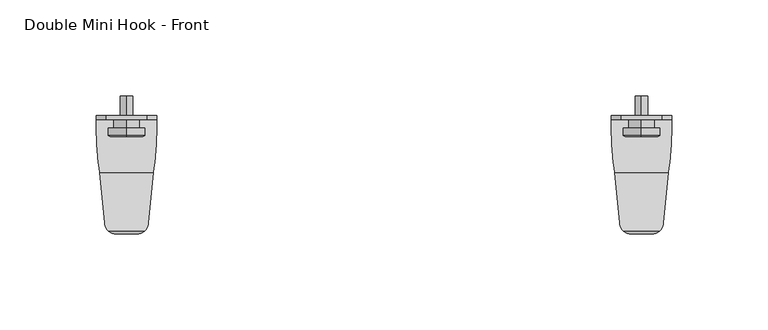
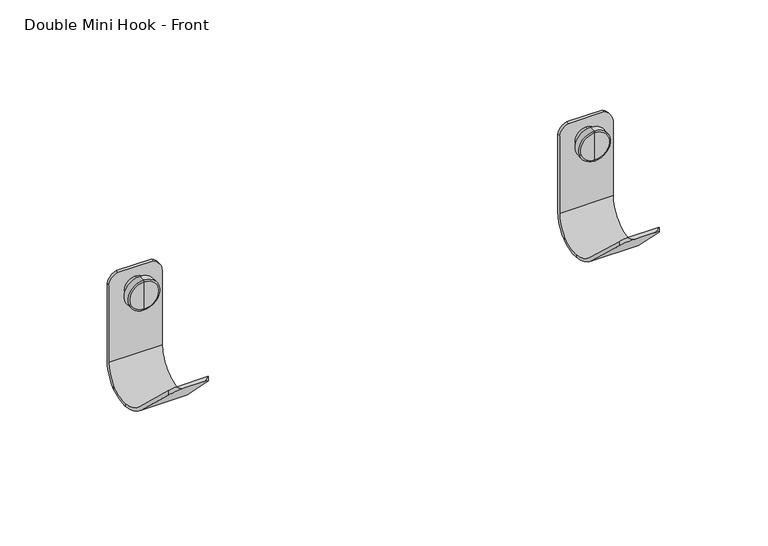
"""IFC4 building model written with IfcOpenShell, lengths in millimetres: furniture geometry, Steelcase Turnstone - Bivi - Accessories - Mini Hook : Double Mini Hook - Front."""

from ifc_helpers import new_model, si_unit, frame, origin, place, context, project, spatial, polyline, circle_curve, ellipse_curve, source, transform, mapped, element, save
from ifc_brep_helpers import plane_surface, cylinder_surface, revolved_surface, advanced_brep


def double_mini_hook_front_8bcf4326(model_context):
    return source(origin(), model_context, "Body", "AdvancedBrep", [
        advanced_brep(
        [(604.2870131, -120.2757621, 1018.5729419), (604.2870131, -120.2757621, 1035.5323022), (604.2870131, -120.2757621, 1027.0526221), (604.2870131, -119.8984646, 1017.6150198), (604.2870131, -119.8984646, 1036.4902243), (604.2870131, -115.9614653, 1017.6150198), (604.2870131, -115.9614653, 1036.4902243), (604.2870131, -115.9614653, 1020.4385878), (604.2870131, -115.9614653, 1033.6666563), (604.2870131, -110.3692216, 1020.4385878), (604.2870131, -110.3692216, 1033.6666563), (604.2870131, -110.3692216, 1023.8073744), (604.2870131, -110.3692216, 1030.2978697), (604.2870131, -99.1020656, 1023.8073744), (604.2870131, -99.1020656, 1030.2978697), (604.2870131, -99.1020656, 1027.0526221)],
        [
            (0, 1, circle_curve(frame((604.2870131, -120.2757621, 1027.0526221), z_axis=(0.0, -1.0, 0.0), x_axis=(0.0, 0.0, 1.0)), 8.4796802)),
            (1, 2),
            (2, 0),
            (1, 0, circle_curve(frame((604.2870131, -120.2757621, 1027.0526221), z_axis=(0.0, -1.0, 0.0), x_axis=(0.0, 0.0, 1.0)), 8.4796802)),
            (3, 4, circle_curve(frame((604.2870131, -119.8984646, 1027.0526221), z_axis=(0.0, -1.0, 0.0), x_axis=(0.0, 0.0, 1.0)), 9.4376022)),
            (4, 1),
            (0, 3),
            (4, 3, circle_curve(frame((604.2870131, -119.8984646, 1027.0526221), z_axis=(0.0, -1.0, 0.0), x_axis=(0.0, 0.0, 1.0)), 9.4376022)),
            (5, 6, circle_curve(frame((604.2870131, -115.9614653, 1027.0526221), z_axis=(0.0, -1.0, 0.0), x_axis=(0.0, 0.0, 1.0)), 9.4376022)),
            (6, 4),
            (3, 5),
            (6, 5, circle_curve(frame((604.2870131, -115.9614653, 1027.0526221), z_axis=(0.0, -1.0, 0.0), x_axis=(0.0, 0.0, 1.0)), 9.4376022)),
            (7, 8, circle_curve(frame((604.2870131, -115.9614653, 1027.0526221), z_axis=(0.0, -1.0, 0.0), x_axis=(0.0, 0.0, 1.0)), 6.6140343)),
            (8, 6),
            (5, 7),
            (8, 7, circle_curve(frame((604.2870131, -115.9614653, 1027.0526221), z_axis=(0.0, -1.0, 0.0), x_axis=(0.0, 0.0, 1.0)), 6.6140343)),
            (9, 10, circle_curve(frame((604.2870131, -110.3692216, 1027.0526221), z_axis=(0.0, -1.0, 0.0), x_axis=(0.0, 0.0, 1.0)), 6.6140343)),
            (10, 8),
            (7, 9),
            (10, 9, circle_curve(frame((604.2870131, -110.3692216, 1027.0526221), z_axis=(0.0, -1.0, 0.0), x_axis=(0.0, 0.0, 1.0)), 6.6140343)),
            (11, 12, circle_curve(frame((604.2870131, -110.3692216, 1027.0526221), z_axis=(0.0, -1.0, 0.0), x_axis=(0.0, 0.0, 1.0)), 3.2452477)),
            (12, 10),
            (9, 11),
            (12, 11, circle_curve(frame((604.2870131, -110.3692216, 1027.0526221), z_axis=(0.0, -1.0, 0.0), x_axis=(0.0, 0.0, 1.0)), 3.2452477)),
            (13, 14, circle_curve(frame((604.2870131, -99.1020656, 1027.0526221), z_axis=(0.0, -1.0, 0.0), x_axis=(0.0, 0.0, 1.0)), 3.2452477)),
            (14, 12),
            (11, 13),
            (14, 13, circle_curve(frame((604.2870131, -99.1020656, 1027.0526221), z_axis=(0.0, -1.0, 0.0), x_axis=(0.0, 0.0, 1.0)), 3.2452477)),
            (15, 14),
            (13, 15),
        ],
        [
            plane_surface(frame((604.2870131, -120.2757621, 1027.0526221), z_axis=(0.0, -1.0, 0.0), x_axis=(0.0, 0.0, 1.0))),
            revolved_surface(polyline([(604.2870131, -120.2757621, 1035.5323022), (604.2870131, -119.8984646, 1036.4902243)]), (604.2870131, -116.6738789, 1027.0526221), (0.0, 1.0, 0.0)),
            cylinder_surface(frame((604.2870131, -116.6738789, 1027.0526221), z_axis=(0.0, 1.0, 0.0), x_axis=(0.0, 0.0, 1.0)), 9.4376022),
            plane_surface(frame((604.2870131, -115.9614653, 1027.0526221), z_axis=(0.0, 1.0, 0.0), x_axis=(0.0, 0.0, 1.0))),
            cylinder_surface(frame((604.2870131, -116.6738789, 1027.0526221), z_axis=(0.0, 1.0, 0.0), x_axis=(0.0, 0.0, 1.0)), 6.6140343),
            plane_surface(frame((604.2870131, -110.3692216, 1027.0526221), z_axis=(0.0, 1.0, 0.0), x_axis=(0.0, 0.0, 1.0))),
            cylinder_surface(frame((604.2870131, -116.6738789, 1027.0526221), z_axis=(0.0, 1.0, 0.0), x_axis=(0.0, 0.0, 1.0)), 3.2452477),
            plane_surface(frame((604.2870131, -99.1020656, 1027.0526221), z_axis=(0.0, 1.0, 0.0), x_axis=(0.0, 0.0, 1.0))),
        ],
        [
            (0, [[1, 2, 3]]),
            (0, [[4, -3, -2]]),
            (1, [[5, 6, -1, 7]]),
            (1, [[8, -7, -4, -6]]),
            (2, [[9, 10, -5, 11]]),
            (2, [[12, -11, -8, -10]]),
            (3, [[13, 14, -9, 15]]),
            (3, [[16, -15, -12, -14]]),
            (4, [[17, 18, -13, 19]]),
            (4, [[20, -19, -16, -18]]),
            (5, [[21, 22, -17, 23]]),
            (5, [[24, -23, -20, -22]]),
            (6, [[25, 26, -21, 27]]),
            (6, [[28, -27, -24, -26]]),
            (7, [[29, -25, 30]]),
            (7, [[-30, -28, -29]]),
        ],
    ),
        advanced_brep(
        [(588.412011, -111.3895045, 985.0156196), (588.412011, -111.3895045, 1031.8857507), (588.412011, -111.3895045, 1033.6357817), (588.412011, -109.4844564, 1033.6357817), (588.412011, -109.4844564, 1031.8857507), (588.412011, -109.4844564, 985.0156196), (588.412011, -115.9875666, 971.1769593), (588.412011, -115.9875666, 973.6348117), (620.1620178, -109.4844564, 985.0156196), (620.1620178, -109.4844564, 1031.8857305), (620.1620178, -111.3895045, 1031.8857305), (620.1620178, -111.3895045, 985.0156196), (620.1620178, -115.9875175, 973.6348625), (620.1620178, -115.9875175, 971.1770008), (619.5669637, -127.3418275, 966.8432061), (618.1739692, -140.5952849, 971.9889373), (590.4000571, -140.5952849, 971.9889373), (589.0070625, -127.3418275, 966.8432061), (615.5844292, -165.2331117, 995.7814101), (609.7199436, -171.0975973, 1001.444678), (598.8540827, -171.0975973, 1001.444678), (592.989597, -165.2331117, 995.7814101), (613.451349, -169.757358, 1002.7849173), (595.1226772, -169.757358, 1002.7849173), (615.5844292, -165.2331117, 998.4159034), (618.312333, -139.2788407, 973.3521552), (590.2616932, -139.2788407, 973.3521552), (592.989597, -165.2331117, 998.4159034), (589.0070625, -127.3418275, 968.6377665), (619.5669637, -127.3418275, 968.6377665), (614.8404561, -111.3895045, 1039.7467841), (593.7460056, -111.3895045, 1039.7526221), (614.8280108, -109.4844564, 1039.7526221), (593.7460056, -109.4844564, 1039.7526221)],
        [
            (0, 1),
            (1, 2),
            (2, 3),
            (3, 4),
            (4, 5),
            (5, 6, circle_curve(frame((588.412011, -127.8422681, 985.1950728), z_axis=(-1.0, 0.0, 0.0), x_axis=(0.0, -1.0, 0.0)), 18.3586888)),
            (6, 7),
            (7, 0, circle_curve(frame((588.412011, -127.7730331, 985.0156196), z_axis=(1.0, 0.0, 0.0), x_axis=(0.0, -1.0, 0.0)), 16.3835286)),
            (8, 9),
            (9, 10),
            (10, 11),
            (11, 12, circle_curve(frame((620.1620178, -127.7730331, 985.0156196), z_axis=(-1.0, 0.0, 0.0), x_axis=(0.0, -1.0, 0.0)), 16.3835286)),
            (12, 13),
            (13, 8, circle_curve(frame((620.1620178, -127.8422681, 985.1950728), z_axis=(1.0, 0.0, 0.0), x_axis=(0.0, -1.0, 0.0)), 18.3586888)),
            (5, 8),
            (13, 14, ellipse_curve(frame((619.5407367, -127.8422681, 985.1950728), z_axis=(-0.9986295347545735, 0.052335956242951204, 0.0), x_axis=(-0.05233595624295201, -0.9986295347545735, 0.0)), 18.3838833, 18.3586888)),
            (14, 15, ellipse_curve(frame((619.5143652, -127.8422681, 985.1950728), z_axis=(-0.9945218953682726, 0.10452846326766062, 0.0), x_axis=(-0.1045284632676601, -0.9945218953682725, 0.0)), 18.4598136, 18.3586888)),
            (15, 16),
            (16, 17, ellipse_curve(frame((589.059661, -127.8422681, 985.1950728), z_axis=(0.9945218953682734, 0.10452846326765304, 0.0), x_axis=(-0.10452846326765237, 0.9945218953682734, 0.0)), 18.4598136, 18.3586888)),
            (17, 6, ellipse_curve(frame((589.0332895, -127.8422681, 985.1950728), z_axis=(0.998629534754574, 0.05233595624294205, 0.0), x_axis=(-0.052335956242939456, 0.998629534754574, 0.0)), 18.3838833, 18.3586888)),
            (15, 18),
            (18, 19, ellipse_curve(frame((609.7199436, -165.2331117, 995.7814101), z_axis=(0.0, -0.6946583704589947, -0.7193398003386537), x_axis=(0.0, 0.7193398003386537, -0.6946583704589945)), 8.1525944, 5.8644857)),
            (19, 20),
            (20, 21, ellipse_curve(frame((598.8540827, -165.2331117, 995.7814101), z_axis=(0.0, -0.6946583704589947, -0.7193398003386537), x_axis=(0.0, 0.7193398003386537, -0.6946583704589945)), 8.1525944, 5.8644857)),
            (21, 16),
            (19, 22, ellipse_curve(frame((609.7199436, -165.2331117, 1007.3091637), z_axis=(0.0, -0.7071067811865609, 0.7071067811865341), x_axis=(0.0, -0.7071067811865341, -0.7071067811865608)), 8.2936352, 5.8644857)),
            (22, 23),
            (23, 20, ellipse_curve(frame((598.8540827, -165.2331117, 1007.3091637), z_axis=(0.0, -0.7071067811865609, 0.7071067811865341), x_axis=(0.0, -0.7071067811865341, -0.7071067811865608)), 8.2936352, 5.8644857)),
            (22, 24, ellipse_curve(frame((609.7199436, -165.2331117, 998.4159034), z_axis=(0.0, 0.6946583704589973, 0.7193398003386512), x_axis=(0.0, 0.7193398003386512, -0.6946583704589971)), 8.1525944, 5.8644857)),
            (24, 25),
            (25, 26),
            (26, 27),
            (27, 23, ellipse_curve(frame((598.8540827, -165.2331117, 998.4159034), z_axis=(0.0, 0.6946583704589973, 0.7193398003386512), x_axis=(0.0, 0.7193398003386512, -0.6946583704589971)), 8.1525944, 5.8644857)),
            (11, 0),
            (7, 28, ellipse_curve(frame((589.0296611, -127.7730331, 985.0156196), z_axis=(-0.998629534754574, -0.05233595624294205, 0.0), x_axis=(0.052335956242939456, -0.998629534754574, 0.0)), 16.4060125, 16.3835286)),
            (28, 26, ellipse_curve(frame((589.0523841, -127.7730331, 985.0156196), z_axis=(-0.9945218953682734, -0.10452846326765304, 0.0), x_axis=(0.10452846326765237, -0.9945218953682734, 0.0)), 16.4737737, 16.3835286)),
            (25, 29, ellipse_curve(frame((619.5216421, -127.7730331, 985.0156196), z_axis=(0.9945218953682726, -0.10452846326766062, 0.0), x_axis=(0.1045284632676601, 0.9945218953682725, 0.0)), 16.4737737, 16.3835286)),
            (29, 12, ellipse_curve(frame((619.5443651, -127.7730331, 985.0156196), z_axis=(0.9986295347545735, -0.052335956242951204, 0.0), x_axis=(0.05233595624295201, 0.9986295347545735, 0.0)), 16.4060125, 16.3835286)),
            (10, 30, circle_curve(frame((610.8894917, -111.3895045, 1031.3404182), z_axis=(0.0, -1.0, 0.0), x_axis=(-1.0, 0.0, 0.0)), 9.288547)),
            (30, 31),
            (31, 2, circle_curve(frame((595.5897362, -111.3895045, 1032.7607662), z_axis=(0.0, -1.0, 0.0), x_axis=(-1.0, 0.0, 0.0)), 7.2308638)),
            (30, 32),
            (32, 33),
            (33, 31),
            (3, 33, circle_curve(frame((595.5897362, -109.4844564, 1032.7607662), z_axis=(0.0, 1.0, 0.0), x_axis=(-1.0, 0.0, 0.0)), 7.2308638)),
            (32, 9, circle_curve(frame((610.8894917, -109.4844564, 1031.3404182), z_axis=(0.0, 1.0, 0.0), x_axis=(-1.0, 0.0, 0.0)), 9.288547)),
            (14, 29),
            (24, 18),
            (17, 28),
            (27, 21),
        ],
        [
            plane_surface(frame((588.412011, -146.2009569, 985.1950728), z_axis=(-1.0, 0.0, 0.0), x_axis=(0.0, 0.0, 1.0))),
            plane_surface(frame((620.1620178, -146.2009569, 985.1950728), z_axis=(1.0, 0.0, 0.0), x_axis=(0.0, 0.0, -1.0))),
            cylinder_surface(frame((620.1620178, -127.8422681, 985.1950728), z_axis=(-1.0, 0.0, 0.0), x_axis=(0.0, -1.0, 0.0)), 18.3586888),
            plane_surface(frame((588.412011, -140.5952849, 971.9889373), z_axis=(0.0, -0.6946583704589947, -0.7193398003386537), x_axis=(1.0, 0.0, 0.0))),
            plane_surface(frame((588.412011, -171.0975973, 1001.444678), z_axis=(0.0, -0.7071067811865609, 0.7071067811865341), x_axis=(1.0, 0.0, 0.0))),
            plane_surface(frame((588.412011, -169.757358, 1002.7849173), z_axis=(0.0, 0.6946583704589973, 0.7193398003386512), x_axis=(1.0, 0.0, 0.0))),
            revolved_surface(polyline([(621.2436203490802, -144.1565617, 985.0156196), (587.33040585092, -144.1565617, 985.0156196)]), (620.1620178, -127.7730331, 985.0156196), (1.0, 0.0, 0.0)),
            plane_surface(frame((588.412011, -111.3895045, 985.0156196), z_axis=(0.0, -1.0, 0.0), x_axis=(1.0, 0.0, 0.0))),
            plane_surface(frame((588.412011, -111.3895045, 1039.7526221), z_axis=(0.0, 0.0, 1.0), x_axis=(1.0, 0.0, 0.0))),
            plane_surface(frame((588.412011, -109.4844564, 1039.7526221), z_axis=(0.0, 1.0, 0.0), x_axis=(1.0, 0.0, 0.0))),
            cylinder_surface(frame((610.8894917, -76.958841, 1031.3404182), z_axis=(0.0, 1.0, 0.0), x_axis=(-1.0, 0.0, 0.0)), 9.288547),
            cylinder_surface(frame((595.5897362, -131.6332564, 1032.7607662), z_axis=(0.0, 1.0, 0.0), x_axis=(-1.0, 0.0, 0.0)), 7.2308638),
            plane_surface(frame((619.5669637, -127.3418275, 1017.6150198), z_axis=(0.9945218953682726, -0.10452846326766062, 0.0), x_axis=(0.0, 0.0, -1.0))),
            cylinder_surface(frame((609.7199436, -165.2331117, 316.2188303), z_axis=(0.0, 0.0, -1.0), x_axis=(0.0, -1.0, 0.0)), 5.8644857),
            plane_surface(frame((620.1620178, -115.9875175, 1017.6150198), z_axis=(0.9986295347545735, -0.052335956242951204, 0.0), x_axis=(0.0, 0.0, -1.0))),
            plane_surface(frame((589.0070625, -127.3418275, 1017.6150198), z_axis=(-0.998629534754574, -0.05233595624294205, 0.0), x_axis=(0.0, 0.0, -1.0))),
            cylinder_surface(frame((598.8540827, -165.2331117, 316.2188303), z_axis=(0.0, 0.0, -1.0), x_axis=(0.0, -1.0, 0.0)), 5.8644857),
            plane_surface(frame((592.989597, -165.2331117, 1017.6150198), z_axis=(-0.9945218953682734, -0.10452846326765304, 0.0), x_axis=(0.0, 0.0, -1.0))),
        ],
        [
            (0, [[1, 2, 3, 4, 5, 6, 7, 8]]),
            (1, [[9, 10, 11, 12, 13, 14]]),
            (2, [[15, -14, 16, 17, 18, 19, 20, -6]]),
            (3, [[-18, 21, 22, 23, 24, 25]]),
            (4, [[-23, 26, 27, 28]]),
            (5, [[-27, 29, 30, 31, 32, 33]]),
            (6, [[34, -8, 35, 36, -31, 37, 38, -12]]),
            (7, [[-34, -11, 39, 40, 41, -2, -1]]),
            (8, [[-40, 42, 43, 44]]),
            (9, [[-15, -5, -4, 45, -43, 46, -9]]),
            (10, [[-10, -46, -42, -39]]),
            (11, [[-3, -41, -44, -45]]),
            (12, [[47, -37, -30, 48, -21, -17]]),
            (13, [[-48, -29, -26, -22]]),
            (14, [[-47, -16, -13, -38]]),
            (15, [[49, -35, -7, -20]]),
            (16, [[50, -24, -28, -33]]),
            (17, [[-49, -19, -25, -50, -32, -36]]),
        ],
    ),
        advanced_brep(
        [(872.4689869, -120.2757621, 1018.5729419), (872.4689869, -120.2757621, 1035.5323022), (872.4689869, -120.2757621, 1027.0526221), (872.4689869, -119.8984646, 1017.6150198), (872.4689869, -119.8984646, 1036.4902243), (872.4689869, -115.9614653, 1017.6150198), (872.4689869, -115.9614653, 1036.4902243), (872.4689869, -115.9614653, 1020.4385878), (872.4689869, -115.9614653, 1033.6666563), (872.4689869, -110.3692216, 1020.4385878), (872.4689869, -110.3692216, 1033.6666563), (872.4689869, -110.3692216, 1023.8073744), (872.4689869, -110.3692216, 1030.2978697), (872.4689869, -99.1020656, 1023.8073744), (872.4689869, -99.1020656, 1030.2978697), (872.4689869, -99.1020656, 1027.0526221)],
        [
            (0, 1, circle_curve(frame((872.4689869, -120.2757621, 1027.0526221), z_axis=(0.0, -1.0, 0.0), x_axis=(0.0, 0.0, 1.0)), 8.4796802)),
            (1, 2),
            (2, 0),
            (1, 0, circle_curve(frame((872.4689869, -120.2757621, 1027.0526221), z_axis=(0.0, -1.0, 0.0), x_axis=(0.0, 0.0, 1.0)), 8.4796802)),
            (3, 4, circle_curve(frame((872.4689869, -119.8984646, 1027.0526221), z_axis=(0.0, -1.0, 0.0), x_axis=(0.0, 0.0, 1.0)), 9.4376022)),
            (4, 1),
            (0, 3),
            (4, 3, circle_curve(frame((872.4689869, -119.8984646, 1027.0526221), z_axis=(0.0, -1.0, 0.0), x_axis=(0.0, 0.0, 1.0)), 9.4376022)),
            (5, 6, circle_curve(frame((872.4689869, -115.9614653, 1027.0526221), z_axis=(0.0, -1.0, 0.0), x_axis=(0.0, 0.0, 1.0)), 9.4376022)),
            (6, 4),
            (3, 5),
            (6, 5, circle_curve(frame((872.4689869, -115.9614653, 1027.0526221), z_axis=(0.0, -1.0, 0.0), x_axis=(0.0, 0.0, 1.0)), 9.4376022)),
            (7, 8, circle_curve(frame((872.4689869, -115.9614653, 1027.0526221), z_axis=(0.0, -1.0, 0.0), x_axis=(0.0, 0.0, 1.0)), 6.6140343)),
            (8, 6),
            (5, 7),
            (8, 7, circle_curve(frame((872.4689869, -115.9614653, 1027.0526221), z_axis=(0.0, -1.0, 0.0), x_axis=(0.0, 0.0, 1.0)), 6.6140343)),
            (9, 10, circle_curve(frame((872.4689869, -110.3692216, 1027.0526221), z_axis=(0.0, -1.0, 0.0), x_axis=(0.0, 0.0, 1.0)), 6.6140343)),
            (10, 8),
            (7, 9),
            (10, 9, circle_curve(frame((872.4689869, -110.3692216, 1027.0526221), z_axis=(0.0, -1.0, 0.0), x_axis=(0.0, 0.0, 1.0)), 6.6140343)),
            (11, 12, circle_curve(frame((872.4689869, -110.3692216, 1027.0526221), z_axis=(0.0, -1.0, 0.0), x_axis=(0.0, 0.0, 1.0)), 3.2452477)),
            (12, 10),
            (9, 11),
            (12, 11, circle_curve(frame((872.4689869, -110.3692216, 1027.0526221), z_axis=(0.0, -1.0, 0.0), x_axis=(0.0, 0.0, 1.0)), 3.2452477)),
            (13, 14, circle_curve(frame((872.4689869, -99.1020656, 1027.0526221), z_axis=(0.0, -1.0, 0.0), x_axis=(0.0, 0.0, 1.0)), 3.2452477)),
            (14, 12),
            (11, 13),
            (14, 13, circle_curve(frame((872.4689869, -99.1020656, 1027.0526221), z_axis=(0.0, -1.0, 0.0), x_axis=(0.0, 0.0, 1.0)), 3.2452477)),
            (15, 14),
            (13, 15),
        ],
        [
            plane_surface(frame((872.4689869, -120.2757621, 1027.0526221), z_axis=(0.0, -1.0, 0.0), x_axis=(0.0, 0.0, 1.0))),
            revolved_surface(polyline([(872.4689869, -120.2757621, 1035.5323022), (872.4689869, -119.8984646, 1036.4902243)]), (872.4689869, -116.6738789, 1027.0526221), (0.0, 1.0000000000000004, 0.0)),
            cylinder_surface(frame((872.4689869, -116.6738789, 1027.0526221), z_axis=(0.0, 1.0000000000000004, 0.0), x_axis=(0.0, 0.0, 1.0)), 9.4376022),
            plane_surface(frame((872.4689869, -115.9614653, 1027.0526221), z_axis=(0.0, 1.0, 0.0), x_axis=(0.0, 0.0, 1.0))),
            cylinder_surface(frame((872.4689869, -116.6738789, 1027.0526221), z_axis=(0.0, 1.0000000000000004, 0.0), x_axis=(0.0, 0.0, 1.0)), 6.6140343),
            plane_surface(frame((872.4689869, -110.3692216, 1027.0526221), z_axis=(0.0, 1.0, 0.0), x_axis=(0.0, 0.0, 1.0))),
            cylinder_surface(frame((872.4689869, -116.6738789, 1027.0526221), z_axis=(0.0, 1.0000000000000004, 0.0), x_axis=(0.0, 0.0, 1.0)), 3.2452477),
            plane_surface(frame((872.4689869, -99.1020656, 1027.0526221), z_axis=(0.0, 1.0, 0.0), x_axis=(0.0, 0.0, 1.0))),
        ],
        [
            (0, [[1, 2, 3]]),
            (0, [[4, -3, -2]]),
            (1, [[5, 6, -1, 7]]),
            (1, [[8, -7, -4, -6]]),
            (2, [[9, 10, -5, 11]]),
            (2, [[12, -11, -8, -10]]),
            (3, [[13, 14, -9, 15]]),
            (3, [[16, -15, -12, -14]]),
            (4, [[17, 18, -13, 19]]),
            (4, [[20, -19, -16, -18]]),
            (5, [[21, 22, -17, 23]]),
            (5, [[24, -23, -20, -22]]),
            (6, [[25, 26, -21, 27]]),
            (6, [[28, -27, -24, -26]]),
            (7, [[29, -25, 30]]),
            (7, [[-30, -28, -29]]),
        ],
    ),
        advanced_brep(
        [(856.5939847, -111.3895045, 985.0156196), (856.5939847, -111.3895045, 1031.8857507), (856.5939847, -111.3895045, 1033.6357817), (856.5939847, -109.4844564, 1033.6357817), (856.5939847, -109.4844564, 1031.8857507), (856.5939847, -109.4844564, 985.0156196), (856.5939847, -115.9875666, 971.1769593), (856.5939847, -115.9875666, 973.6348117), (888.3439916, -109.4844564, 985.0156196), (888.3439916, -109.4844564, 1031.8857305), (888.3439916, -111.3895045, 1031.8857305), (888.3439916, -111.3895045, 985.0156196), (888.3439916, -115.9875175, 973.6348625), (888.3439916, -115.9875175, 971.1770008), (887.7489375, -127.3418275, 966.8432061), (886.3559429, -140.5952849, 971.9889373), (858.5820308, -140.5952849, 971.9889373), (857.1890363, -127.3418275, 966.8432061), (883.766403, -165.2331117, 995.7814101), (877.9019173, -171.0975973, 1001.444678), (867.0360564, -171.0975973, 1001.444678), (861.1715708, -165.2331117, 995.7814101), (881.6333228, -169.757358, 1002.7849173), (863.304651, -169.757358, 1002.7849173), (883.766403, -165.2331117, 998.4159034), (886.4943068, -139.2788407, 973.3521552), (858.443667, -139.2788407, 973.3521552), (861.1715708, -165.2331117, 998.4159034), (857.1890363, -127.3418275, 968.6377665), (887.7489375, -127.3418275, 968.6377665), (883.0224298, -111.3895045, 1039.7467841), (861.9279793, -111.3895045, 1039.7526221), (883.0099846, -109.4844564, 1039.7526221), (861.9279793, -109.4844564, 1039.7526221)],
        [
            (0, 1),
            (1, 2),
            (2, 3),
            (3, 4),
            (4, 5),
            (5, 6, circle_curve(frame((856.5939847, -127.8422681, 985.1950728), z_axis=(-1.0, 0.0, 0.0), x_axis=(0.0, -1.0000000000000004, 0.0)), 18.3586888)),
            (6, 7),
            (7, 0, circle_curve(frame((856.5939847, -127.7730331, 985.0156196), z_axis=(1.0, 0.0, 0.0), x_axis=(0.0, -1.0000000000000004, 0.0)), 16.3835286)),
            (8, 9),
            (9, 10),
            (10, 11),
            (11, 12, circle_curve(frame((888.3439916, -127.7730331, 985.0156196), z_axis=(-1.0, 0.0, 0.0), x_axis=(0.0, -1.0000000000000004, 0.0)), 16.3835286)),
            (12, 13),
            (13, 8, circle_curve(frame((888.3439916, -127.8422681, 985.1950728), z_axis=(1.0, 0.0, 0.0), x_axis=(0.0, -1.0000000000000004, 0.0)), 18.3586888)),
            (5, 8),
            (13, 14, ellipse_curve(frame((887.7227105, -127.8422681, 985.1950728), z_axis=(-0.9986295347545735, 0.052335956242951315, 0.0), x_axis=(-0.05233595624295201, -0.9986295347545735, 0.0)), 18.3838833, 18.3586888)),
            (14, 15, ellipse_curve(frame((887.696339, -127.8422681, 985.1950728), z_axis=(-0.9945218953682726, 0.10452846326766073, 0.0), x_axis=(-0.1045284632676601, -0.9945218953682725, 0.0)), 18.4598136, 18.3586888)),
            (15, 16),
            (16, 17, ellipse_curve(frame((857.2416348, -127.8422681, 985.1950728), z_axis=(0.9945218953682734, 0.10452846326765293, 0.0), x_axis=(-0.10452846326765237, 0.9945218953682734, 0.0)), 18.4598136, 18.3586888)),
            (17, 6, ellipse_curve(frame((857.2152633, -127.8422681, 985.1950728), z_axis=(0.998629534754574, 0.05233595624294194, 0.0), x_axis=(-0.052335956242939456, 0.998629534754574, 0.0)), 18.3838833, 18.3586888)),
            (15, 18),
            (18, 19, ellipse_curve(frame((877.9019173, -165.2331117, 995.7814101), z_axis=(0.0, -0.6946583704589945, -0.7193398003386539), x_axis=(0.0, 0.7193398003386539, -0.6946583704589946)), 8.1525944, 5.8644857)),
            (19, 20),
            (20, 21, ellipse_curve(frame((867.0360564, -165.2331117, 995.7814101), z_axis=(0.0, -0.6946583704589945, -0.7193398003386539), x_axis=(0.0, 0.7193398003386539, -0.6946583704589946)), 8.1525944, 5.8644857)),
            (21, 16),
            (19, 22, ellipse_curve(frame((877.9019173, -165.2331117, 1007.3091637), z_axis=(0.0, -0.7071067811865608, 0.7071067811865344), x_axis=(0.0, -0.7071067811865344, -0.7071067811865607)), 8.2936352, 5.8644857)),
            (22, 23),
            (23, 20, ellipse_curve(frame((867.0360564, -165.2331117, 1007.3091637), z_axis=(0.0, -0.7071067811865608, 0.7071067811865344), x_axis=(0.0, -0.7071067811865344, -0.7071067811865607)), 8.2936352, 5.8644857)),
            (22, 24, ellipse_curve(frame((877.9019173, -165.2331117, 998.4159034), z_axis=(0.0, 0.6946583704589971, 0.7193398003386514), x_axis=(0.0, 0.7193398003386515, -0.6946583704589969)), 8.1525944, 5.8644857)),
            (24, 25),
            (25, 26),
            (26, 27),
            (27, 23, ellipse_curve(frame((867.0360564, -165.2331117, 998.4159034), z_axis=(0.0, 0.6946583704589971, 0.7193398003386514), x_axis=(0.0, 0.7193398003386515, -0.6946583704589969)), 8.1525944, 5.8644857)),
            (11, 0),
            (7, 28, ellipse_curve(frame((857.2116349, -127.7730331, 985.0156196), z_axis=(-0.998629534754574, -0.05233595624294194, 0.0), x_axis=(0.052335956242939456, -0.998629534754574, 0.0)), 16.4060125, 16.3835286)),
            (28, 26, ellipse_curve(frame((857.2343579, -127.7730331, 985.0156196), z_axis=(-0.9945218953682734, -0.10452846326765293, 0.0), x_axis=(0.10452846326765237, -0.9945218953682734, 0.0)), 16.4737737, 16.3835286)),
            (25, 29, ellipse_curve(frame((887.7036159, -127.7730331, 985.0156196), z_axis=(0.9945218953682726, -0.10452846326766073, 0.0), x_axis=(0.1045284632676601, 0.9945218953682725, 0.0)), 16.4737737, 16.3835286)),
            (29, 12, ellipse_curve(frame((887.7263389, -127.7730331, 985.0156196), z_axis=(0.9986295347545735, -0.052335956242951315, 0.0), x_axis=(0.05233595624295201, 0.9986295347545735, 0.0)), 16.4060125, 16.3835286)),
            (10, 30, circle_curve(frame((879.0714655, -111.3895045, 1031.3404182), z_axis=(0.0, -1.0, 0.0), x_axis=(-1.0000000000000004, 0.0, 0.0)), 9.288547)),
            (30, 31),
            (31, 2, circle_curve(frame((863.77171, -111.3895045, 1032.7607662), z_axis=(0.0, -1.0, 0.0), x_axis=(-1.0000000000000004, 0.0, 0.0)), 7.2308638)),
            (30, 32),
            (32, 33),
            (33, 31),
            (3, 33, circle_curve(frame((863.77171, -109.4844564, 1032.7607662), z_axis=(0.0, 1.0, 0.0), x_axis=(-1.0000000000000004, 0.0, 0.0)), 7.2308638)),
            (32, 9, circle_curve(frame((879.0714655, -109.4844564, 1031.3404182), z_axis=(0.0, 1.0, 0.0), x_axis=(-1.0000000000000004, 0.0, 0.0)), 9.288547)),
            (14, 29),
            (24, 18),
            (17, 28),
            (27, 21),
        ],
        [
            plane_surface(frame((856.5939847, -146.2009569, 985.1950728), z_axis=(-1.0, 0.0, 0.0), x_axis=(0.0, 0.0, 1.0))),
            plane_surface(frame((888.3439916, -146.2009569, 985.1950728), z_axis=(1.0, 0.0, 0.0), x_axis=(0.0, 0.0, -1.0))),
            cylinder_surface(frame((888.3439916, -127.8422681, 985.1950728), z_axis=(-1.0000000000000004, 0.0, 0.0), x_axis=(0.0, -1.0000000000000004, 0.0)), 18.3586888),
            plane_surface(frame((856.5939847, -140.5952849, 971.9889373), z_axis=(0.0, -0.6946583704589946, -0.719339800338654), x_axis=(1.0, 0.0, 0.0))),
            plane_surface(frame((856.5939847, -171.0975973, 1001.444678), z_axis=(0.0, -0.7071067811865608, 0.7071067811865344), x_axis=(1.0, 0.0, 0.0))),
            plane_surface(frame((856.5939847, -169.757358, 1002.7849173), z_axis=(0.0, 0.6946583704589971, 0.7193398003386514), x_axis=(1.0, 0.0, 0.0))),
            revolved_surface(polyline([(889.4255941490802, -144.15656170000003, 985.0156196), (855.5123796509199, -144.15656170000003, 985.0156196)]), (888.3439916, -127.7730331, 985.0156196), (1.0000000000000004, 0.0, 0.0)),
            plane_surface(frame((856.5939847, -111.3895045, 985.0156196), z_axis=(0.0, -1.0, 0.0), x_axis=(1.0, 0.0, 0.0))),
            plane_surface(frame((856.5939847, -111.3895045, 1039.7526221), z_axis=(0.0, 0.0, 1.0), x_axis=(1.0, 0.0, 0.0))),
            plane_surface(frame((856.5939847, -109.4844564, 1039.7526221), z_axis=(0.0, 1.0, 0.0), x_axis=(1.0, 0.0, 0.0))),
            cylinder_surface(frame((879.0714655, -76.958841, 1031.3404182), z_axis=(0.0, 1.0000000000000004, 0.0), x_axis=(-1.0000000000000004, 0.0, 0.0)), 9.288547),
            cylinder_surface(frame((863.77171, -131.6332564, 1032.7607662), z_axis=(0.0, 1.0000000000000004, 0.0), x_axis=(-1.0000000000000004, 0.0, 0.0)), 7.2308638),
            plane_surface(frame((887.7489375, -127.3418275, 1017.6150198), z_axis=(0.9945218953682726, -0.10452846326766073, 0.0), x_axis=(0.0, 0.0, -1.0))),
            cylinder_surface(frame((877.9019173, -165.2331117, 316.2188303), z_axis=(0.0, 0.0, -1.0), x_axis=(0.0, -1.0000000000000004, 0.0)), 5.8644857),
            plane_surface(frame((888.3439916, -115.9875175, 1017.6150198), z_axis=(0.9986295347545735, -0.052335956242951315, 0.0), x_axis=(0.0, 0.0, -1.0))),
            plane_surface(frame((857.1890363, -127.3418275, 1017.6150198), z_axis=(-0.998629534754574, -0.05233595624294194, 0.0), x_axis=(0.0, 0.0, -1.0))),
            cylinder_surface(frame((867.0360564, -165.2331117, 316.2188303), z_axis=(0.0, 0.0, -1.0), x_axis=(0.0, -1.0000000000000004, 0.0)), 5.8644857),
            plane_surface(frame((861.1715708, -165.2331117, 1017.6150198), z_axis=(-0.9945218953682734, -0.10452846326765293, 0.0), x_axis=(0.0, 0.0, -1.0))),
        ],
        [
            (0, [[1, 2, 3, 4, 5, 6, 7, 8]]),
            (1, [[9, 10, 11, 12, 13, 14]]),
            (2, [[15, -14, 16, 17, 18, 19, 20, -6]]),
            (3, [[-18, 21, 22, 23, 24, 25]]),
            (4, [[-23, 26, 27, 28]]),
            (5, [[-27, 29, 30, 31, 32, 33]]),
            (6, [[34, -8, 35, 36, -31, 37, 38, -12]]),
            (7, [[-34, -11, 39, 40, 41, -2, -1]]),
            (8, [[-40, 42, 43, 44]]),
            (9, [[-15, -5, -4, 45, -43, 46, -9]]),
            (10, [[-10, -46, -42, -39]]),
            (11, [[-3, -41, -44, -45]]),
            (12, [[47, -37, -30, 48, -21, -17]]),
            (13, [[-48, -29, -26, -22]]),
            (14, [[-47, -16, -13, -38]]),
            (15, [[49, -35, -7, -20]]),
            (16, [[50, -24, -28, -33]]),
            (17, [[-49, -19, -25, -50, -32, -36]]),
        ],
    ),
    ])


if __name__ == "__main__":
    model = new_model("IFC4")
    model_context = context("Model", 3, world=origin())
    ifc_project = project(units=[si_unit("LENGTHUNIT", "METRE", prefix="MILLI")], contexts=[model_context])
    site = spatial("IfcSite", under=ifc_project)
    building = spatial("IfcBuilding", under=site)
    placement = place(None, origin())
    double_mini_hook_front_shape = double_mini_hook_front_8bcf4326(model_context)
    element("IfcFurniture", 1, ObjectType="Steelcase Turnstone - Bivi - Accessories - Mini Hook : Double Mini Hook - Front", at=placement, inside=building, context=model_context, shape_type="MappedRepresentation", body=[
        mapped(double_mini_hook_front_shape, transform((0.0, 0.0, 0.0), x_axis=(1.0, 0.0, 0.0), y_axis=(0.0, 1.0, 0.0), z_axis=(0.0, 0.0, 1.0))),
    ])
    save(model, "model.ifc")
